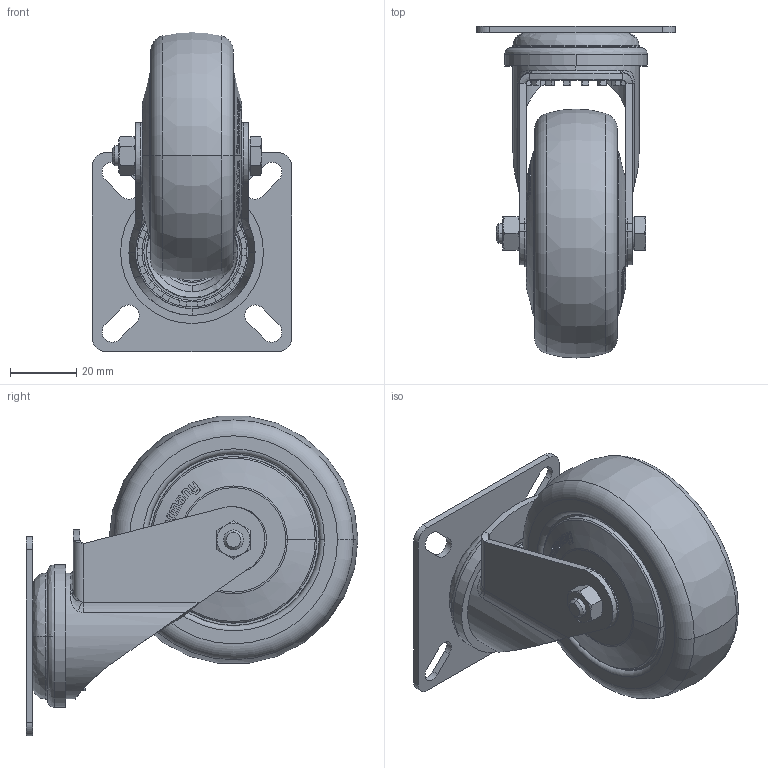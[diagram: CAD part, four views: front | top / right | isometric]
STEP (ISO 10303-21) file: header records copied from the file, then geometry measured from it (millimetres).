
FILE_DESCRIPTION (( 'STEP AP214' ), '1' );
FILE_NAME ('LPXA-TPA_75KD-FK_754986-214.step', '2012-10-13T09:41:23', ( 'Matthias Senn' ), ( 'Blickle Räder+Rollen' ), 'SwSTEP 2.0', 'SolidWorks 2010', '' );
FILE_SCHEMA (( 'AUTOMOTIVE_DESIGN' ));
Length unit declared in the file: millimetre
Products named in the file (4): TPA-K-FK_G15_TPA_75_6KD-FK; GH-LPXA_075_G15; AM_LRXA_08x30_G_G15; LPXA-TPA_75KD-FK_754986-214
Assembly tree (3 placements, depth 2):
  LPXA-TPA_75KD-FK_754986-214
    TPA-K-FK_G15_TPA_75_6KD-FK
    AM_LRXA_08x30_G_G15
    GH-LPXA_075_G15
Bounding box: 60 x 100 x 96.23 mm (x, y, z)
Volume: 138739.7 mm3; surface area: 35948.4 mm2
Topology: 3 solids, 3 shells, 1064 faces, 2818 edges, 1848 vertices
Faces by surface type: plane 588, bspline 292, cone 93, cylinder 65, torus 26
Entity records: 63566 total; most frequent: CARTESIAN_POINT 28500, ORIENTED_EDGE 5636, DIRECTION 3414, EDGE_CURVE 2818, VERTEX_POINT 1848, VECTOR 1238, LINE 1238, B_SPLINE_CURVE_WITH_KNOTS 1208
